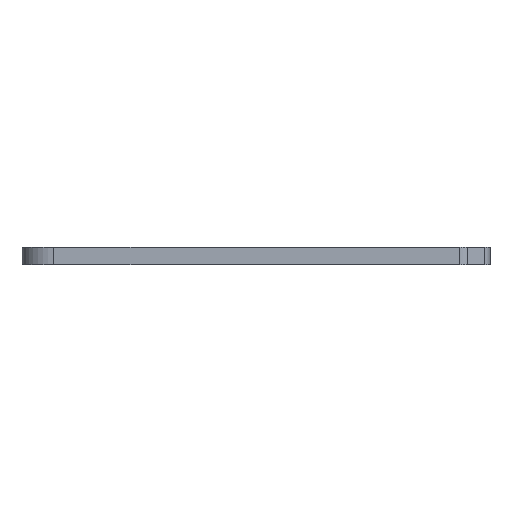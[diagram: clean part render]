
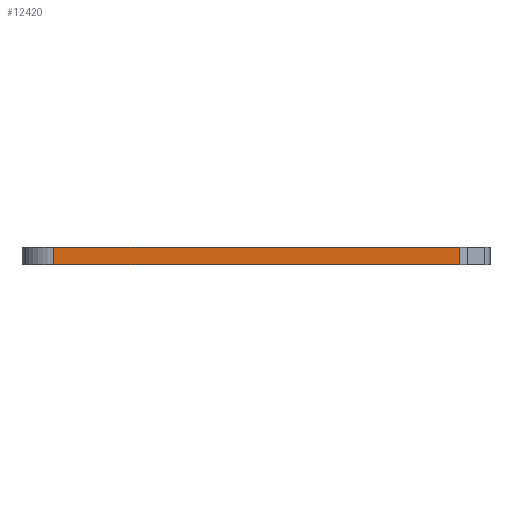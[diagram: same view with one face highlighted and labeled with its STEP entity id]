
A CAD part, front view. The second image highlights one B-rep face of the part: STEP entity #12420.
In plain terms, the highlighted planar face has unit normal (0, -1, 0).
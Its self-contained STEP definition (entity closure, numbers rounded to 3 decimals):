
#6690=CARTESIAN_POINT('',(12.73,-38.2,
0.));
#6700=VERTEX_POINT('',#6690);
#6880=CARTESIAN_POINT('',(12.73,-38.2,
2.2));
#6890=VERTEX_POINT('',#6880);
#6920=CARTESIAN_POINT('',(12.73,-38.2,
0.));
#6930=DIRECTION('',(0.,0.,-1.));
#6940=VECTOR('',#6930,1.);
#6950=LINE('',#6920,#6940);
#6960=EDGE_CURVE('',#6890,#6700,#6950,.T.);
#8220=CARTESIAN_POINT('',(63.723,-38.2,
2.2));
#8230=VERTEX_POINT('',#8220);
#8260=CARTESIAN_POINT('',(47.92,-38.2,2.2))
;
#8270=DIRECTION('',(-1.,0.,0.));
#8280=VECTOR('',#8270,1.);
#8290=LINE('',#8260,#8280);
#8300=EDGE_CURVE('',#8230,#6890,#8290,.T.);
#12190=CARTESIAN_POINT('',(67.53,-38.2,
0.));
#12200=DIRECTION('',(0.,-1.,0.));
#12210=DIRECTION('',(-1.,0.,0.));
#12220=AXIS2_PLACEMENT_3D('',#12190,#12200,#12210);
#12230=PLANE('',#12220);
#12240=ORIENTED_EDGE('',*,*,#6960,.T.);
#12250=ORIENTED_EDGE('',*,*,#8300,.T.);
#12260=CARTESIAN_POINT('',(63.723,-38.2,
0.));
#12270=DIRECTION('',(0.,0.,1.));
#12280=VECTOR('',#12270,1.);
#12290=LINE('',#12260,#12280);
#12300=CARTESIAN_POINT('',(63.723,-38.2,
0.));
#12310=VERTEX_POINT('',#12300);
#12320=EDGE_CURVE('',#12310,#8230,#12290,.T.);
#12330=ORIENTED_EDGE('',*,*,#12320,.T.);
#12340=CARTESIAN_POINT('',(47.92,-38.2,
0.));
#12350=DIRECTION('',(1.,0.,0.));
#12360=VECTOR('',#12350,1.);
#12370=LINE('',#12340,#12360);
#12380=EDGE_CURVE('',#6700,#12310,#12370,.T.);
#12390=ORIENTED_EDGE('',*,*,#12380,.T.);
#12400=EDGE_LOOP('',(#12390,#12330,#12250,#12240));
#12410=FACE_OUTER_BOUND('',#12400,.T.);
#12420=ADVANCED_FACE('',(#12410),#12230,.T.);
